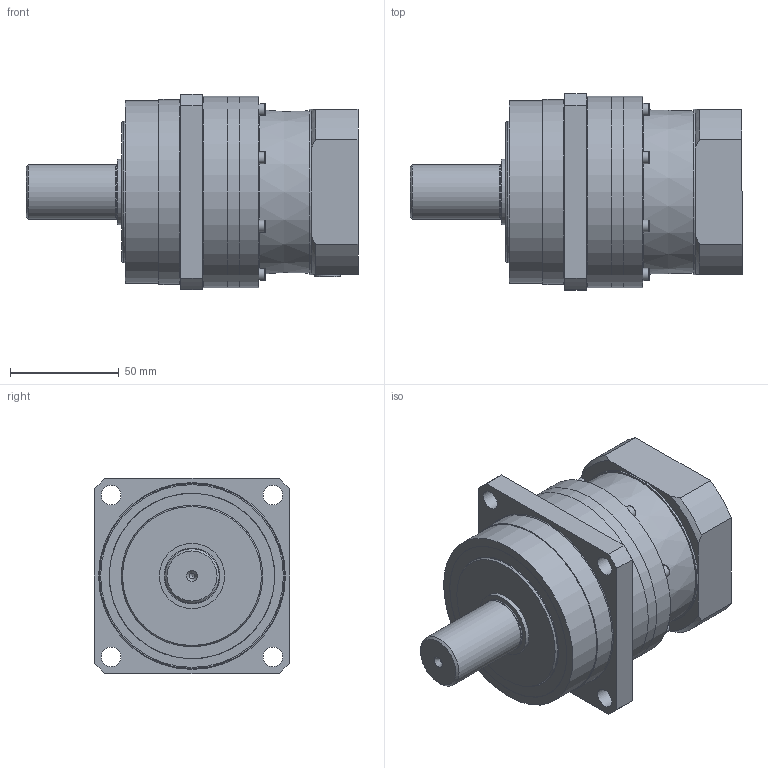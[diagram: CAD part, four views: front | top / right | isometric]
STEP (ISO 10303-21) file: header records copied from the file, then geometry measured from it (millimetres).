
FILE_DESCRIPTION(/* description */ ('ANFX-P120N-2-C08G'),/* implementation_level */ '2;1');
FILE_NAME(/* name */ 'C:\Users\ADMINI~1\AppData\Local\Temp\MM582315_ANFX-P120N-2-C08G.stp',/* time_stamp */ '2018-06-20T09:57:15+02:00',/* author */ ('Max'),/* organization */ (''),/* preprocessor_version */ 'ST-DEVELOPER v17',/* originating_system */ 'Autodesk Inventor 2018',/* authorisation */ '');
FILE_SCHEMA (('AUTOMOTIVE_DESIGN { 1 0 10303 214 3 1 1 }'));
Length unit declared in the file: millimetre
Products named in the file (21): MM581710; MMBG0004078; MMCL445LG; MMCM226LG; MAX4840G; MAW8381G; MMBG0004153; MMCH509LG; M204639; M204639-1; M204639-2; M204639-3; M204639-4; 212006; M530A30508---G; MMAP6513G; 202471; MMAP1654G; 134332; 200458; MAW8386G
Assembly tree (42 placements, depth 4):
  MM581710
    MMBG0004078
      MMCL445LG
      MMCM226LG
      MAX4840G
      MAW8381G
    MMBG0004153
      MMCH509LG
      M204639
        M204639-1
        M204639-2
        M204639-3  x2
        M204639-4  x12
      212006  x8
      M530A30508---G
      MMAP6513G
      202471
      MMAP1654G
    134332
    200458  x4
    MAW8386G
Bounding box: 152.5 x 90 x 90 mm (x, y, z)
Volume: 414336.8 mm3; surface area: 163414.9 mm2
Topology: 81 solids, 81 shells, 563 faces, 1579 edges, 1137 vertices
Faces by surface type: plane 222, cylinder 165, cone 72, sphere 53, torus 51
Full cylindrical faces by diameter (mm): 2 x1, 2.459 x12, 2.5 x1, 3 x8, 3.242 x1, 3.4 x8, 3.5 x8, 4 x1, 4.134 x12, 4.5 x1, 5 x4, 5.5 x12, 7 x1, 8 x1, 8.5 x4, 9 x4, 9.5 x1, 9.8 x1, 10 x4, 10.2 x1, 10.4 x1, 12 x1, 13 x1, 24 x2, 25 x1, 28 x1, 28.6 x1, 29.4 x1, 29.6 x1, 30 x3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
Entity records: 14027 total; most frequent: DIRECTION 2568, CARTESIAN_POINT 2410, ORIENTED_EDGE 2006, AXIS2_PLACEMENT_3D 1148, EDGE_CURVE 1003, VERTEX_POINT 803, CIRCLE 696, EDGE_LOOP 552
